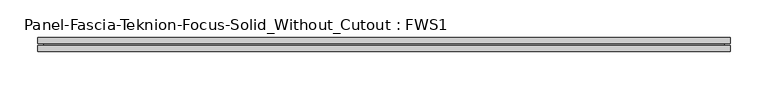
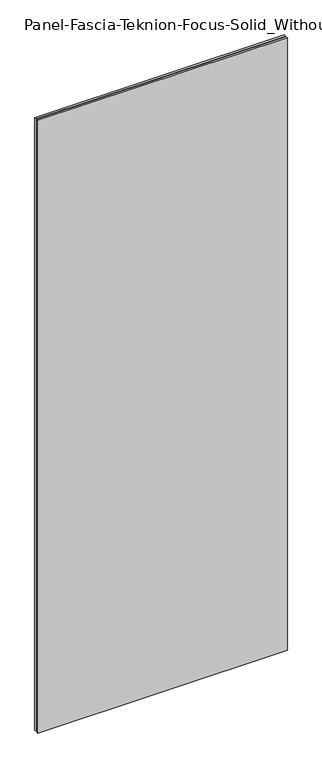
"""IFC4 building model written with IfcOpenShell, lengths in millimetres: proxy geometry, Panel-Fascia-Teknion-Focus-Solid_Without_Cutout : FWS1."""

from ifc_helpers import new_model, si_unit, origin, place, context, project, spatial, faceted_brep, source, transform, mapped, element, save


def panel_fascia_teknion_focus_solid_without_cutout_fws1_c4e99436(model_context):
    return source(origin(), model_context, "Body", "Brep", [
        faceted_brep([(457.2, 1.5, 2371.7000194), (457.2, 9.25, 2371.7000194), (-457.2, 9.25, 2371.7000194), (-457.2, 1.5, 2371.7000194), (457.2, -9.25, 2371.7000194), (457.2, -1.5, 2371.7000194), (-457.2, -1.5, 2371.7000194), (-457.2, -9.25, 2371.7000194), (-457.2, 1.5, 0.0), (-457.2, 9.25, 0.0), (457.2, 9.25, 0.0), (457.2, 1.5, 0.0), (457.2, -9.25, 0.0), (-457.2, -9.25, 0.0), (-457.2, -1.5, 0.0), (457.2, -1.5, 0.0), (-449.2, -1.5, 2363.7000194), (-449.2, -1.5, 8.0), (449.2, -1.5, 8.0), (449.2, -1.5, 2363.7000194), (-449.2, 1.5, 2363.7000194), (-449.2, 1.5, 8.0), (449.2, 1.5, 2363.7000194), (449.2, 1.5, 8.0)], [[[0, 1, 2, 3]], [[4, 5, 6, 7]], [[8, 9, 10, 11]], [[12, 13, 14, 15]], [[7, 13, 12, 4]], [[2, 9, 8, 3]], [[1, 10, 9, 2]], [[11, 10, 1, 0]], [[14, 13, 7, 6]], [[5, 15, 14, 6], [16, 17, 18, 19]], [[16, 20, 21, 17]], [[3, 8, 11, 0], [21, 20, 22, 23]], [[22, 19, 18, 23]], [[4, 12, 15, 5]], [[20, 16, 19, 22]], [[23, 18, 17, 21]]]),
    ])


if __name__ == "__main__":
    model = new_model("IFC4")
    model_context = context("Model", 3, world=origin())
    ifc_project = project(units=[si_unit("LENGTHUNIT", "METRE", prefix="MILLI")], contexts=[model_context])
    site = spatial("IfcSite", under=ifc_project)
    building = spatial("IfcBuilding", under=site)
    placement = place(None, origin())
    panel_fascia_teknion_focus_solid_without_cutout_fws1_shape = panel_fascia_teknion_focus_solid_without_cutout_fws1_c4e99436(model_context)
    element("IfcBuildingElementProxy", 1, Name="Panel-Fascia-Teknion-Focus-Solid_Without_Cutout : FWS1", ObjectType="Panel-Fascia-Teknion-Focus-Solid_Without_Cutout : FWS1", at=placement, inside=building, context=model_context, shape_type="MappedRepresentation", body=[
        mapped(panel_fascia_teknion_focus_solid_without_cutout_fws1_shape, transform((0.0, 0.0, 0.0), x_axis=(1.0, 0.0, 0.0), y_axis=(0.0, 1.0, 0.0), z_axis=(0.0, 0.0, 1.0))),
    ])
    save(model, "model.ifc")
